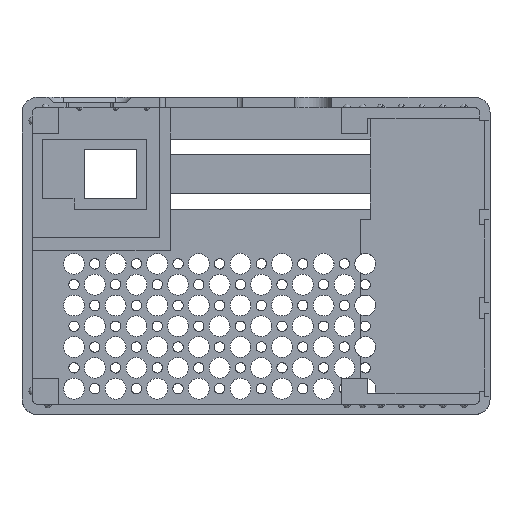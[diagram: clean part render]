
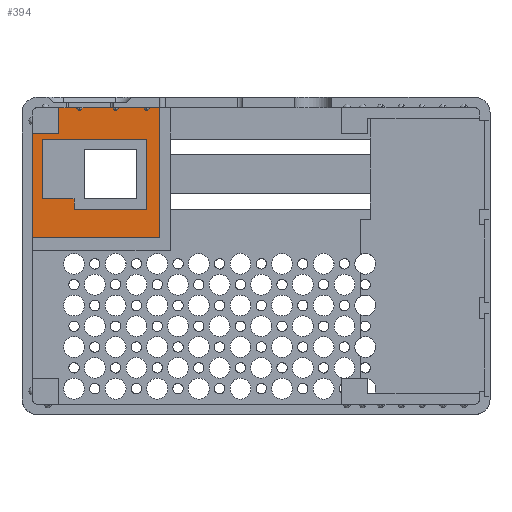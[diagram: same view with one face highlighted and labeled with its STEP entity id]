
A CAD part, top view. The second image highlights one B-rep face of the part: STEP entity #394.
In plain terms, the highlighted planar face has unit normal (0, 0, 1).
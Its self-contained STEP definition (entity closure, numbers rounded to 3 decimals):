
#17=FACE_BOUND('',#1053,.T.);
#394=ADVANCED_FACE('',(#722,#17),#6277,.T.);
#722=FACE_OUTER_BOUND('',#1052,.T.);
#1052=EDGE_LOOP('',(#1821,#1822,#1823,#1824,#1825));
#1053=EDGE_LOOP('',(#1826,#1827,#1828,#1829,#1830,#1831));
#1821=ORIENTED_EDGE('',*,*,#3689,.T.);
#1822=ORIENTED_EDGE('',*,*,#3667,.T.);
#1823=ORIENTED_EDGE('',*,*,#3669,.T.);
#1824=ORIENTED_EDGE('',*,*,#3671,.T.);
#1825=ORIENTED_EDGE('',*,*,#3690,.T.);
#1826=ORIENTED_EDGE('',*,*,#4034,.T.);
#1827=ORIENTED_EDGE('',*,*,#4042,.T.);
#1828=ORIENTED_EDGE('',*,*,#3641,.T.);
#1829=ORIENTED_EDGE('',*,*,#4091,.T.);
#1830=ORIENTED_EDGE('',*,*,#4032,.T.);
#1831=ORIENTED_EDGE('',*,*,#4033,.T.);
#3641=EDGE_CURVE('',#5490,#5489,#5096,.T.);
#3667=EDGE_CURVE('',#5503,#5507,#5116,.T.);
#3669=EDGE_CURVE('',#5507,#5506,#5118,.T.);
#3671=EDGE_CURVE('',#5506,#5520,#5120,.T.);
#3689=EDGE_CURVE('',#5519,#5503,#5133,.T.);
#3690=EDGE_CURVE('',#5520,#5519,#4493,.T.);
#4032=EDGE_CURVE('',#5741,#5742,#5161,.T.);
#4033=EDGE_CURVE('',#5742,#5743,#5162,.T.);
#4034=EDGE_CURVE('',#5743,#5744,#5163,.T.);
#4042=EDGE_CURVE('',#5744,#5490,#5171,.T.);
#4091=EDGE_CURVE('',#5489,#5741,#5208,.T.);
#4493=(
BOUNDED_CURVE()
B_SPLINE_CURVE(2,(#12474,#12475,#12476),.UNSPECIFIED.,.F.,.F.)
B_SPLINE_CURVE_WITH_KNOTS((3,3),(0.,1.571),.UNSPECIFIED.)
CURVE()
GEOMETRIC_REPRESENTATION_ITEM()
RATIONAL_B_SPLINE_CURVE((1.,0.707,1.))
REPRESENTATION_ITEM('')
);
#5096=B_SPLINE_CURVE_WITH_KNOTS('',1,(#12365,#12366),.UNSPECIFIED.,.F.,
 .F.,(2,2),(-17.5,-6.),.UNSPECIFIED.);
#5116=B_SPLINE_CURVE_WITH_KNOTS('',1,(#12423,#12424),.UNSPECIFIED.,.F.,
 .F.,(2,2),(0.,24.5),.UNSPECIFIED.);
#5118=B_SPLINE_CURVE_WITH_KNOTS('',1,(#12427,#12428),.UNSPECIFIED.,.F.,
 .F.,(2,2),(29.5,55.),.UNSPECIFIED.);
#5120=B_SPLINE_CURVE_WITH_KNOTS('',1,(#12431,#12432),.UNSPECIFIED.,.F.,
 .F.,(2,2),(261.5,285.),.UNSPECIFIED.);
#5133=B_SPLINE_CURVE_WITH_KNOTS('',1,(#12472,#12473),.UNSPECIFIED.,.F.,
 .F.,(2,2),(1.,25.5),.UNSPECIFIED.);
#5161=B_SPLINE_CURVE_WITH_KNOTS('',1,(#14591,#14592),.UNSPECIFIED.,.F.,
 .F.,(2,2),(6.,19.5),.UNSPECIFIED.);
#5162=B_SPLINE_CURVE_WITH_KNOTS('',1,(#14593,#14594),.UNSPECIFIED.,.F.,
 .F.,(2,2),(-22.,-8.),.UNSPECIFIED.);
#5163=B_SPLINE_CURVE_WITH_KNOTS('',1,(#14595,#14596),.UNSPECIFIED.,.F.,
 .F.,(2,2),(-19.5,-17.5),.UNSPECIFIED.);
#5171=B_SPLINE_CURVE_WITH_KNOTS('',1,(#14611,#14612),.UNSPECIFIED.,.F.,
 .F.,(2,2),(31.5,37.5),.UNSPECIFIED.);
#5208=B_SPLINE_CURVE_WITH_KNOTS('',1,(#14797,#14798,#14799,#14800),
 .UNSPECIFIED.,.F.,.F.,(2,1,1,2),(2.,8.,10.,22.),.UNSPECIFIED.);
#5489=VERTEX_POINT('',#11431);
#5490=VERTEX_POINT('',#11432);
#5503=VERTEX_POINT('',#11445);
#5506=VERTEX_POINT('',#11448);
#5507=VERTEX_POINT('',#11449);
#5519=VERTEX_POINT('',#11461);
#5520=VERTEX_POINT('',#11462);
#5741=VERTEX_POINT('',#11683);
#5742=VERTEX_POINT('',#11684);
#5743=VERTEX_POINT('',#11685);
#5744=VERTEX_POINT('',#11686);
#6277=PLANE('',#6409);
#6409=AXIS2_PLACEMENT_3D('',#11088,#6524,$);
#6524=DIRECTION('',(0.,0.,1.));
#11088=CARTESIAN_POINT('',(-43.,28.5,3.));
#11431=CARTESIAN_POINT('',(-41.,22.5,3.));
#11432=CARTESIAN_POINT('',(-41.,11.,3.));
#11445=CARTESIAN_POINT('',(-43.,3.,3.));
#11448=CARTESIAN_POINT('',(-18.5,28.5,3.));
#11449=CARTESIAN_POINT('',(-18.5,3.,3.));
#11461=CARTESIAN_POINT('',(-43.,27.5,3.));
#11462=CARTESIAN_POINT('',(-42.,28.5,3.));
#11683=CARTESIAN_POINT('',(-21.,22.5,3.));
#11684=CARTESIAN_POINT('',(-21.,9.,3.));
#11685=CARTESIAN_POINT('',(-35.,9.,3.));
#11686=CARTESIAN_POINT('',(-35.,11.,3.));
#12365=CARTESIAN_POINT('',(-41.,11.,3.));
#12366=CARTESIAN_POINT('',(-41.,22.5,3.));
#12423=CARTESIAN_POINT('',(-43.,3.,3.));
#12424=CARTESIAN_POINT('',(-18.5,3.,3.));
#12427=CARTESIAN_POINT('',(-18.5,3.,3.));
#12428=CARTESIAN_POINT('',(-18.5,28.5,3.));
#12431=CARTESIAN_POINT('',(-18.5,28.5,3.));
#12432=CARTESIAN_POINT('',(-42.,28.5,3.));
#12472=CARTESIAN_POINT('',(-43.,27.5,3.));
#12473=CARTESIAN_POINT('',(-43.,3.,3.));
#12474=CARTESIAN_POINT('',(-42.,28.5,3.));
#12475=CARTESIAN_POINT('',(-43.,28.5,3.));
#12476=CARTESIAN_POINT('',(-43.,27.5,3.));
#14591=CARTESIAN_POINT('',(-21.,22.5,3.));
#14592=CARTESIAN_POINT('',(-21.,9.,3.));
#14593=CARTESIAN_POINT('',(-21.,9.,3.));
#14594=CARTESIAN_POINT('',(-35.,9.,3.));
#14595=CARTESIAN_POINT('',(-35.,9.,3.));
#14596=CARTESIAN_POINT('',(-35.,11.,3.));
#14611=CARTESIAN_POINT('',(-35.,11.,3.));
#14612=CARTESIAN_POINT('',(-41.,11.,3.));
#14797=CARTESIAN_POINT('',(-41.,22.5,3.));
#14798=CARTESIAN_POINT('',(-35.,22.5,3.));
#14799=CARTESIAN_POINT('',(-33.,22.5,3.));
#14800=CARTESIAN_POINT('',(-21.,22.5,3.));
